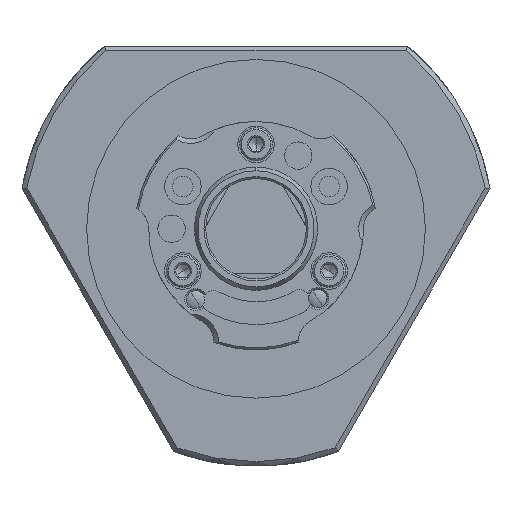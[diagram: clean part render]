
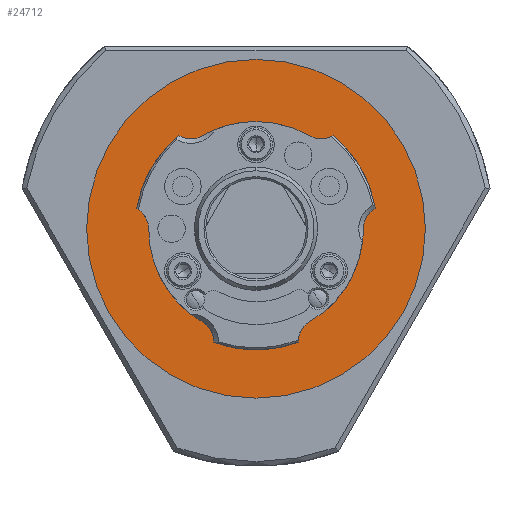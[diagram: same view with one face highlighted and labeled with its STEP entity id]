
A CAD part, front view. The second image highlights one B-rep face of the part: STEP entity #24712.
In plain terms, the highlighted planar face has unit normal (0, -1, 0).
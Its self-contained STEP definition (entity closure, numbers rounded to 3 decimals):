
#2619 = DIRECTION ( 'NONE',  ( 0., 1., 0. ) ) ;
#2817 = EDGE_CURVE ( 'NONE', #29040, #41171, #32706, .T. ) ;
#4290 = EDGE_LOOP ( 'NONE', ( #18529, #52223 ) ) ;
#4679 = PLANE ( 'NONE',  #29265 ) ;
#7382 = EDGE_CURVE ( 'NONE', #19096, #8968, #48346, .T. ) ;
#8967 = CARTESIAN_POINT ( 'NONE',  ( 0., 6., 23.5 ) ) ;
#8968 = VERTEX_POINT ( 'NONE', #36436 ) ;
#11199 = DIRECTION ( 'NONE',  ( 0., -1., 0. ) ) ;
#11409 = ORIENTED_EDGE ( 'NONE', *, *, #15702, .F. ) ;
#12004 = DIRECTION ( 'NONE',  ( 0., 1., 0. ) ) ;
#15702 = EDGE_CURVE ( 'NONE', #8968, #19096, #30285, .T. ) ;
#18529 = ORIENTED_EDGE ( 'NONE', *, *, #37545, .T. ) ;
#18886 = DIRECTION ( 'NONE',  ( 0., 1., 0. ) ) ;
#19096 = VERTEX_POINT ( 'NONE', #30348 ) ;
#19260 = DIRECTION ( 'NONE',  ( 0., 0., 1. ) ) ;
#20883 = CARTESIAN_POINT ( 'NONE',  ( 0., 6., 0. ) ) ;
#24642 = CARTESIAN_POINT ( 'NONE',  ( 0., 6., 0. ) ) ;
#24712 = ADVANCED_FACE ( 'NONE', ( #44575, #29388 ), #4679, .T. ) ;
#25861 = AXIS2_PLACEMENT_3D ( 'NONE', #20883, #12004, #28155 ) ;
#26796 = CARTESIAN_POINT ( 'NONE',  ( 0., 6., 0. ) ) ;
#28147 = DIRECTION ( 'NONE',  ( 0., 1., 0. ) ) ;
#28155 = DIRECTION ( 'NONE',  ( 0., 0., 1. ) ) ;
#29040 = VERTEX_POINT ( 'NONE', #30524 ) ;
#29265 = AXIS2_PLACEMENT_3D ( 'NONE', #8967, #11199, #45573 ) ;
#29388 = FACE_OUTER_BOUND ( 'NONE', #34651, .T. ) ;
#30285 = CIRCLE ( 'NONE', #37163, 37.1 ) ;
#30348 = CARTESIAN_POINT ( 'NONE',  ( 0., 6., -37.1 ) ) ;
#30524 = CARTESIAN_POINT ( 'NONE',  ( 0., 6., -23.5 ) ) ;
#30733 = DIRECTION ( 'NONE',  ( 0., 0., 1. ) ) ;
#32706 = CIRCLE ( 'NONE', #25861, 23.5 ) ;
#34651 = EDGE_LOOP ( 'NONE', ( #11409, #38275 ) ) ;
#34837 = AXIS2_PLACEMENT_3D ( 'NONE', #26796, #2619, #19260 ) ;
#36436 = CARTESIAN_POINT ( 'NONE',  ( 0., 6., 37.1 ) ) ;
#37163 = AXIS2_PLACEMENT_3D ( 'NONE', #47440, #18886, #30733 ) ;
#37545 = EDGE_CURVE ( 'NONE', #41171, #29040, #48642, .T. ) ;
#38029 = AXIS2_PLACEMENT_3D ( 'NONE', #24642, #28147, #48885 ) ;
#38275 = ORIENTED_EDGE ( 'NONE', *, *, #7382, .F. ) ;
#41171 = VERTEX_POINT ( 'NONE', #42234 ) ;
#42234 = CARTESIAN_POINT ( 'NONE',  ( 0., 6., 23.5 ) ) ;
#44575 = FACE_BOUND ( 'NONE', #4290, .T. ) ;
#45573 = DIRECTION ( 'NONE',  ( 0., 0., -1. ) ) ;
#47440 = CARTESIAN_POINT ( 'NONE',  ( 0., 6., 0. ) ) ;
#48346 = CIRCLE ( 'NONE', #38029, 37.1 ) ;
#48642 = CIRCLE ( 'NONE', #34837, 23.5 ) ;
#48885 = DIRECTION ( 'NONE',  ( 0., 0., 1. ) ) ;
#52223 = ORIENTED_EDGE ( 'NONE', *, *, #2817, .T. ) ;
